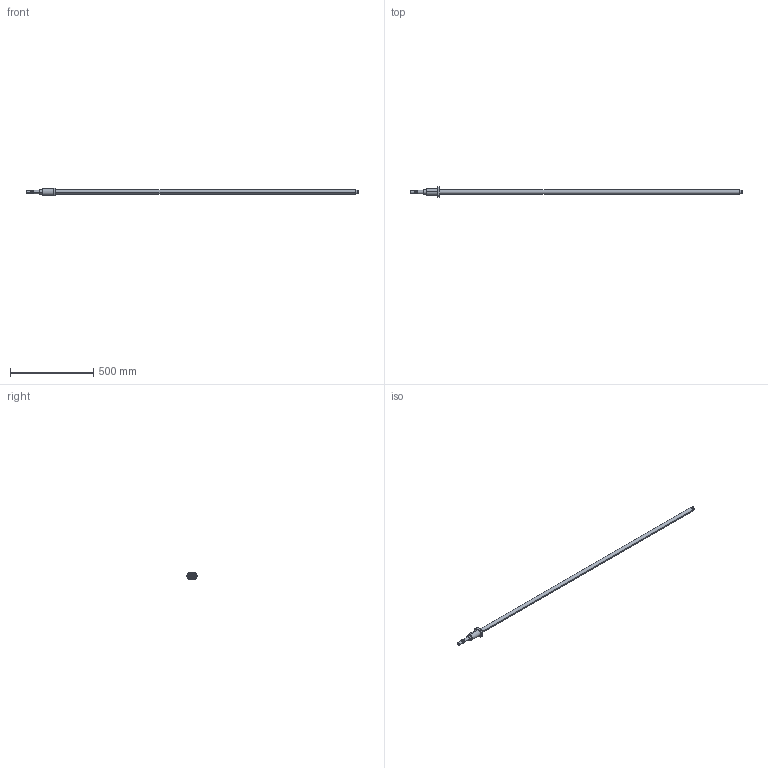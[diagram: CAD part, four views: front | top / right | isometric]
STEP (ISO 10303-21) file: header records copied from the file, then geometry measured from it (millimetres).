
FILE_DESCRIPTION (( 'STEP AP214' ), '1' );
FILE_NAME ('7.3011 STNUR2510-2000mm.STEP', '2026-03-04T09:07:28', ( '' ), ( '' ), 'SwSTEP 2.0', 'SolidWorks 2025', '' );
FILE_SCHEMA (( 'AUTOMOTIVE_DESIGN' ));
Length unit declared in the file: millimetre
Products named in the file (3): 7.3107 STNUR2510T4D; 7.3036 TCR2510-FC7; 7.3011 STNUR2510-2000mm
Assembly tree (2 placements, depth 2):
  7.3011 STNUR2510-2000mm
    7.3036 TCR2510-FC7
    7.3107 STNUR2510T4D
Bounding box: 2000 x 61.8 x 48 mm (x, y, z)
Volume: 1021660.4 mm3; surface area: 178535.5 mm2
Topology: 2 solids, 2 shells, 648 faces, 1818 edges, 1206 vertices
Faces by surface type: bspline 428, cylinder 107, plane 98, cone 15
Entity records: 36328 total; most frequent: CARTESIAN_POINT 22679, ORIENTED_EDGE 3636, EDGE_CURVE 1818, DIRECTION 1394, VERTEX_POINT 1206, B_SPLINE_CURVE_WITH_KNOTS 885, LINE 754, VECTOR 754
